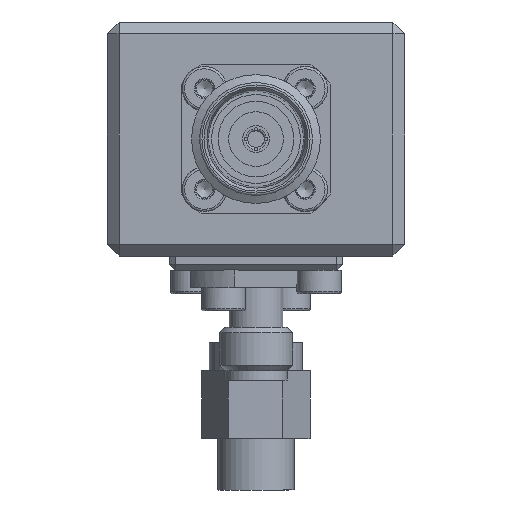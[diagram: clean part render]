
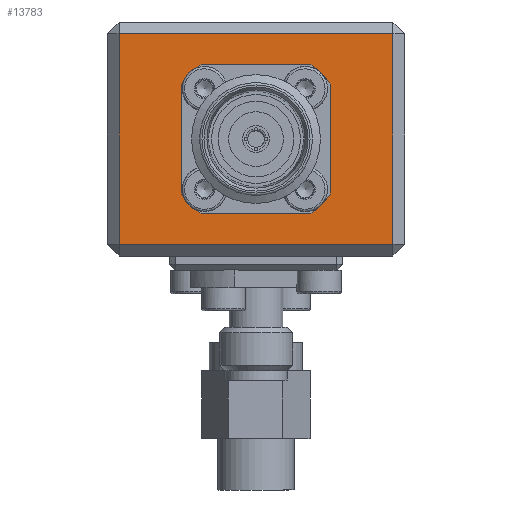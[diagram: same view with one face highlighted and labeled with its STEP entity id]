
A CAD part, front view. The second image highlights one B-rep face of the part: STEP entity #13783.
In plain terms, the highlighted planar face has unit normal (0, -1, 0).
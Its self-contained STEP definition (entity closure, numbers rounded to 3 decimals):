
#453=CIRCLE('',#14456,7.9);
#454=CIRCLE('',#14457,7.9);
#455=CIRCLE('',#14458,7.9);
#456=CIRCLE('',#14459,7.9);
#858=ORIENTED_EDGE('',*,*,#3432,.T.);
#859=ORIENTED_EDGE('',*,*,#3433,.T.);
#860=ORIENTED_EDGE('',*,*,#3434,.T.);
#861=ORIENTED_EDGE('',*,*,#3435,.T.);
#862=ORIENTED_EDGE('',*,*,#3436,.T.);
#863=ORIENTED_EDGE('',*,*,#3437,.F.);
#864=ORIENTED_EDGE('',*,*,#3438,.T.);
#865=ORIENTED_EDGE('',*,*,#3439,.F.);
#866=ORIENTED_EDGE('',*,*,#3440,.T.);
#867=ORIENTED_EDGE('',*,*,#3441,.F.);
#868=ORIENTED_EDGE('',*,*,#3442,.T.);
#869=ORIENTED_EDGE('',*,*,#3443,.F.);
#3432=EDGE_CURVE('',#4719,#4720,#5648,.T.);
#3433=EDGE_CURVE('',#4720,#4721,#5649,.T.);
#3434=EDGE_CURVE('',#4721,#4722,#5650,.T.);
#3435=EDGE_CURVE('',#4722,#4719,#5651,.T.);
#3436=EDGE_CURVE('',#4723,#4724,#5652,.T.);
#3437=EDGE_CURVE('',#4725,#4724,#453,.T.);
#3438=EDGE_CURVE('',#4725,#4726,#5653,.T.);
#3439=EDGE_CURVE('',#4727,#4726,#454,.T.);
#3440=EDGE_CURVE('',#4727,#4728,#5654,.T.);
#3441=EDGE_CURVE('',#4729,#4728,#455,.T.);
#3442=EDGE_CURVE('',#4729,#4730,#5655,.T.);
#3443=EDGE_CURVE('',#4723,#4730,#456,.T.);
#4719=VERTEX_POINT('',#18300);
#4720=VERTEX_POINT('',#18301);
#4721=VERTEX_POINT('',#18303);
#4722=VERTEX_POINT('',#18305);
#4723=VERTEX_POINT('',#18308);
#4724=VERTEX_POINT('',#18309);
#4725=VERTEX_POINT('',#18311);
#4726=VERTEX_POINT('',#18313);
#4727=VERTEX_POINT('',#18315);
#4728=VERTEX_POINT('',#18317);
#4729=VERTEX_POINT('',#18319);
#4730=VERTEX_POINT('',#18321);
#5648=LINE('',#18299,#6377);
#5649=LINE('',#18302,#6378);
#5650=LINE('',#18304,#6379);
#5651=LINE('',#18306,#6380);
#5652=LINE('',#18307,#6381);
#5653=LINE('',#18312,#6382);
#5654=LINE('',#18316,#6383);
#5655=LINE('',#18320,#6384);
#6377=VECTOR('',#15496,1000.);
#6378=VECTOR('',#15497,1000.);
#6379=VECTOR('',#15498,1000.);
#6380=VECTOR('',#15499,1000.);
#6381=VECTOR('',#15500,1000.);
#6382=VECTOR('',#15503,1000.);
#6383=VECTOR('',#15506,1000.);
#6384=VECTOR('',#15509,1000.);
#7106=EDGE_LOOP('',(#858,#859,#860,#861));
#7107=EDGE_LOOP('',(#862,#863,#864,#865,#866,#867,#868,#869));
#8022=FACE_BOUND('',#7106,.T.);
#8023=FACE_BOUND('',#7107,.T.);
#8956=PLANE('',#14455);
#13783=ADVANCED_FACE('',(#8022,#8023),#8956,.F.);
#14455=AXIS2_PLACEMENT_3D('',#18298,#15494,#15495);
#14456=AXIS2_PLACEMENT_3D('',#18310,#15501,#15502);
#14457=AXIS2_PLACEMENT_3D('',#18314,#15504,#15505);
#14458=AXIS2_PLACEMENT_3D('',#18318,#15507,#15508);
#14459=AXIS2_PLACEMENT_3D('',#18322,#15510,#15511);
#15494=DIRECTION('',(0.,1.,0.));
#15495=DIRECTION('',(0.,0.,1.));
#15496=DIRECTION('',(1.,0.,0.));
#15497=DIRECTION('',(0.,0.,1.));
#15498=DIRECTION('',(-1.,0.,0.));
#15499=DIRECTION('',(0.,0.,-1.));
#15500=DIRECTION('',(-1.,0.,0.));
#15501=DIRECTION('',(0.,-1.,0.));
#15502=DIRECTION('',(1.,0.,0.));
#15503=DIRECTION('',(0.,0.,1.));
#15504=DIRECTION('',(0.,-1.,0.));
#15505=DIRECTION('',(1.,0.,0.));
#15506=DIRECTION('',(1.,0.,0.));
#15507=DIRECTION('',(0.,-1.,0.));
#15508=DIRECTION('',(1.,0.,0.));
#15509=DIRECTION('',(0.,0.,-1.));
#15510=DIRECTION('',(0.,-1.,0.));
#15511=DIRECTION('',(1.,0.,0.));
#18298=CARTESIAN_POINT('',(12.7,0.,-10.));
#18299=CARTESIAN_POINT('',(12.7,0.,-9.));
#18300=CARTESIAN_POINT('',(-11.7,0.,-9.));
#18301=CARTESIAN_POINT('',(11.7,0.,-9.));
#18302=CARTESIAN_POINT('',(11.7,0.,-10.));
#18303=CARTESIAN_POINT('',(11.7,0.,9.));
#18304=CARTESIAN_POINT('',(12.7,0.,9.));
#18305=CARTESIAN_POINT('',(-11.7,0.,9.));
#18306=CARTESIAN_POINT('',(-11.7,0.,-10.));
#18307=CARTESIAN_POINT('',(6.35,0.,-6.35));
#18308=CARTESIAN_POINT('',(4.7,0.,-6.35));
#18309=CARTESIAN_POINT('',(-4.7,0.,-6.35));
#18310=CARTESIAN_POINT('',(0.,0.,0.));
#18311=CARTESIAN_POINT('',(-6.35,0.,-4.7));
#18312=CARTESIAN_POINT('',(-6.35,0.,-6.35));
#18313=CARTESIAN_POINT('',(-6.35,0.,4.7));
#18314=CARTESIAN_POINT('',(0.,0.,0.));
#18315=CARTESIAN_POINT('',(-4.7,0.,6.35));
#18316=CARTESIAN_POINT('',(-6.35,0.,6.35));
#18317=CARTESIAN_POINT('',(4.7,0.,6.35));
#18318=CARTESIAN_POINT('',(0.,0.,0.));
#18319=CARTESIAN_POINT('',(6.35,0.,4.7));
#18320=CARTESIAN_POINT('',(6.35,0.,6.35));
#18321=CARTESIAN_POINT('',(6.35,0.,-4.7));
#18322=CARTESIAN_POINT('',(0.,0.,0.));
